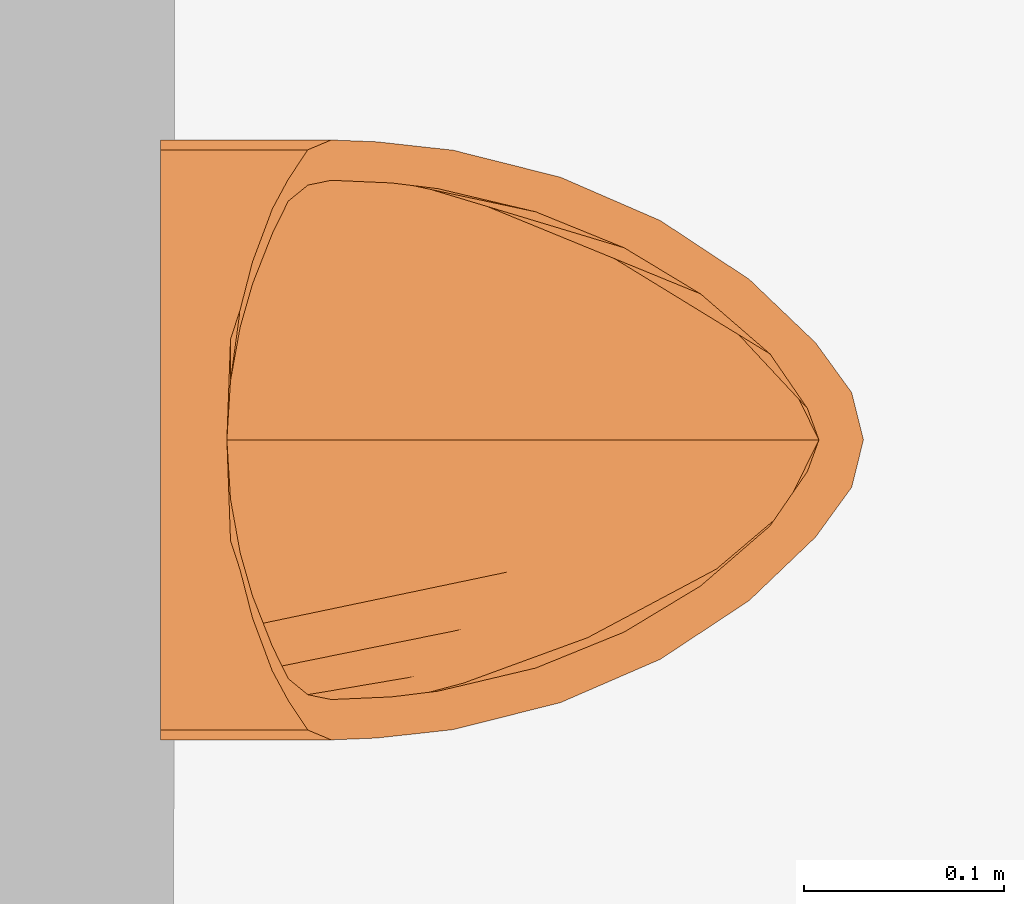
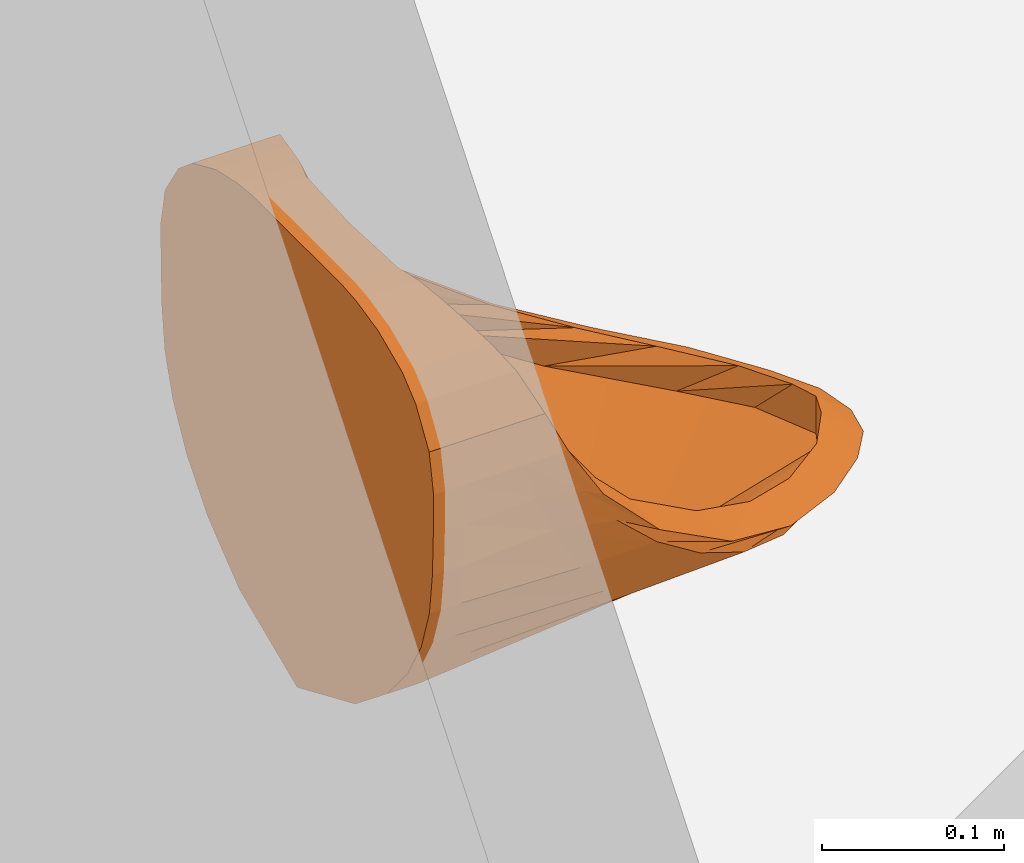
# One storey, part 194 of 196: 1 proxy.
"""IFC2X3 building model written with IfcOpenShell, lengths in metres."""

from ifc_helpers import new_model, entity, si_unit, converted_unit, derived_unit, money_unit, direction, frame, origin_with_axes, place, context, subcontext, project, spatial, open_shell, faceted_brep, surface_model, type_object, element, save


model = new_model("IFC2X3")

# Units and contexts
model_context = context("Model", 3, precision=1e-05, world=origin_with_axes(), true_north=direction((0.0, 1.0)))
body_context = subcontext(model_context, "Body", "Model", "MODEL_VIEW")
ifc_project = project(units=[si_unit("LENGTHUNIT", "METRE"), si_unit("AREAUNIT", "SQUARE_METRE"), si_unit("VOLUMEUNIT", "CUBIC_METRE"), converted_unit("PLANEANGLEUNIT", "DEGREE", entity("IfcPlaneAngleMeasure", 0.0174532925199), si_unit("PLANEANGLEUNIT", "RADIAN"), dimensions=[0, 0, 0, 0, 0, 0, 0]), money_unit("EUR"), converted_unit("TIMEUNIT", "Year", entity("IfcTimeMeasure", 31556926.0), si_unit("TIMEUNIT", "SECOND"), dimensions=[0, 0, 1, 0, 0, 0, 0]), si_unit("MASSUNIT", "GRAM", prefix="KILO"), si_unit("THERMODYNAMICTEMPERATUREUNIT", "DEGREE_CELSIUS"), si_unit("LUMINOUSINTENSITYUNIT", "LUMEN"), si_unit("ENERGYUNIT", "JOULE", prefix="MEGA"), derived_unit("THERMALCONDUCTANCEUNIT", [(si_unit("POWERUNIT", "WATT"), 1), (si_unit("LENGTHUNIT", "METRE"), -1), (si_unit("THERMODYNAMICTEMPERATUREUNIT", "KELVIN"), -1)]), derived_unit("SPECIFICHEATCAPACITYUNIT", [(si_unit("ENERGYUNIT", "JOULE"), 1), (si_unit("MASSUNIT", "GRAM", prefix="KILO"), -1), (si_unit("THERMODYNAMICTEMPERATUREUNIT", "KELVIN"), -1)]), derived_unit("MASSDENSITYUNIT", [(si_unit("MASSUNIT", "GRAM", prefix="KILO"), 1), (si_unit("VOLUMEUNIT", "CUBIC_METRE"), -1)])], contexts=[model_context])

# Site, building, storey
site_placement = place(None, origin_with_axes())
site = spatial("IfcSite", under=ifc_project, at=site_placement, Name="Gelände", CompositionType="ELEMENT")
building_placement = place(site_placement, origin_with_axes())
building = spatial("IfcBuilding", under=site, at=building_placement, Name="Gebäude", CompositionType="ELEMENT")
storey_placement = place(building_placement, frame((0.0, 0.0, -3.0), z_axis=(0.0, 0.0, 1.0), x_axis=(1.0, 0.0, 0.0)))
storey = spatial("IfcBuildingStorey", under=building, at=storey_placement, Name="KELLERGESCHOSS", CompositionType="ELEMENT", Elevation=-3.0)

# Proxy
building_element_proxy_type = type_object("IfcBuildingElementProxyType", Name="Urinal 1 25", PredefinedType="NOTDEFINED")
proxy_placement = place(storey_placement, frame((13.3709975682, 23.1837958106, -0.149475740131), z_axis=(0.0, 0.0, 1.0), x_axis=(0.0, 1.0, 0.0)))
element("IfcBuildingElementProxy", 1, at=proxy_placement, inside=storey, type_object=building_element_proxy_type, Name="Objekt-00220", context=body_context, shape_type="SurfaceModel", body=[
    faceted_brep([(0.0, 0.00663189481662, 1.0), (-0.0503710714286, 0.00663189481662, 0.999898), (-0.0503710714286, 0.0, 0.999898), (0.0, 0.0, 1.0), (0.0503710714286, 0.00663189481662, 0.999898), (0.0650260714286, 0.00663189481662, 0.998525), (0.0890367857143, 0.00663189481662, 0.993198), (0.115533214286, 0.00663189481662, 0.981535), (0.130329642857, 0.00663189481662, 0.969181), (0.1451025, 0.00663189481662, 0.945871), (0.15, 0.00663189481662, 0.920148), (0.149671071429, 0.00663189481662, 0.89263), (0.148683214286, 0.00663189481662, 0.865111), (0.145370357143, 0.00663189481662, 0.837593), (0.136527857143, 0.00663189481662, 0.810074), (0.121330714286, 0.00663189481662, 0.782556), (0.0982478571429, 0.00663189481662, 0.755037), (0.0638796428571, 0.00663189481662, 0.727519), (0.0, 0.00663189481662, 0.7), (-0.0638796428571, 0.00663189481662, 0.727519), (-0.0982478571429, 0.00663189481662, 0.755037), (-0.121330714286, 0.00663189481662, 0.782556), (-0.136527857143, 0.00663189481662, 0.810074), (-0.145370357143, 0.00663189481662, 0.837593), (-0.148683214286, 0.00663189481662, 0.865111), (-0.149671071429, 0.00663189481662, 0.89263), (-0.15, 0.00663189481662, 0.920148), (-0.1451025, 0.00663189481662, 0.945871), (-0.130329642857, 0.00663189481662, 0.969181), (-0.115533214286, 0.00663189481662, 0.981535), (-0.0890367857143, 0.00663189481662, 0.993198), (-0.0650260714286, 0.00663189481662, 0.998525), (-0.0650260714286, 0.0, 0.998525), (-0.0890367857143, 0.0, 0.993198), (-0.115533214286, 0.0, 0.981535), (-0.130329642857, 0.0, 0.969181), (-0.1451025, 0.0, 0.945871), (-0.15, 0.0, 0.920148), (-0.149671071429, 0.0, 0.89263), (-0.148683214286, 0.0, 0.865111), (-0.145370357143, 0.0, 0.837593), (-0.136527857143, 0.0, 0.810074), (-0.121330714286, 0.0, 0.782556), (-0.0982478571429, 0.0, 0.755037), (-0.0638796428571, 0.0, 0.727519), (0.0, 0.0, 0.7), (0.0638796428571, 0.0, 0.727519), (0.0982478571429, 0.0, 0.755037), (0.121330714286, 0.0, 0.782556), (0.136527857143, 0.0, 0.810074), (0.145370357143, 0.0, 0.837593), (0.148683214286, 0.0, 0.865111), (0.149671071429, 0.0, 0.89263), (0.15, 0.0, 0.920148), (0.1451025, 0.0, 0.945871), (0.130329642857, 0.0, 0.969181), (0.115533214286, 0.0, 0.981535), (0.0890367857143, 0.0, 0.993198), (0.0650260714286, 0.0, 0.998525), (0.0503710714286, 0.0, 0.999898)], [[[0, 1, 2, 3]], [[0, 4, 5, 6, 7, 8, 9, 10, 11, 12, 13, 14, 15, 16, 17, 18, 19, 20, 21, 22, 23, 24, 25, 26, 27, 28, 29, 30, 31, 1]], [[1, 31, 32, 2]], [[3, 2, 32, 33, 34, 35, 36, 37, 38, 39, 40, 41, 42, 43, 44, 45, 46, 47, 48, 49, 50, 51, 52, 53, 54, 55, 56, 57, 58, 59]], [[4, 0, 3, 59]], [[5, 4, 59, 58]], [[6, 5, 58, 57]], [[7, 6, 57, 56]], [[8, 7, 56, 55]], [[9, 8, 55, 54]], [[10, 9, 54, 53]], [[11, 10, 53, 52]], [[12, 11, 52, 51]], [[13, 12, 51, 50]], [[14, 13, 50, 49]], [[15, 14, 49, 48]], [[16, 15, 48, 47]], [[17, 16, 47, 46]], [[18, 17, 46, 45]], [[19, 18, 45, 44]], [[20, 19, 44, 43]], [[21, 20, 43, 42]], [[22, 21, 42, 41]], [[23, 22, 41, 40]], [[24, 23, 40, 39]], [[25, 24, 39, 38]], [[26, 25, 38, 37]], [[27, 26, 37, 36]], [[28, 27, 36, 35]], [[29, 28, 35, 34]], [[30, 29, 34, 33]], [[31, 30, 33, 32]]]),
    surface_model("IfcShellBasedSurfaceModel", [(0.0, 0.0, 1.0), (0.0, -0.0132637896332, 1.0), (-0.0503710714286, -0.0132637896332, 0.999898), (0.0503710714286, 0.0, 0.999898), (-0.0503710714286, -0.0199407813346, 0.999898), (-0.0503710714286, 0.0, 0.999898), (0.0503710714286, -0.0132637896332, 0.999898), (0.0, -0.0198956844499, 1.0), (-0.0650260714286, -0.0205495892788, 0.998525), (-0.0650260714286, -0.0132637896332, 0.998525), (0.0650260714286, 0.0, 0.998525), (-0.0503710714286, -0.0255261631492, 0.999898), (-0.0650260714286, -0.0263856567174, 0.998525), (-0.0650260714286, 0.0, 0.998525), (0.0650260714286, -0.0132637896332, 0.998525), (0.0503710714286, -0.0199407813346, 0.999898), (0.0, -0.0254571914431, 1.0), (-0.0890367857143, -0.0299337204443, 0.993198), (-0.0890367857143, -0.0228773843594, 0.993198), (-0.0890367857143, -0.0132637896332, 0.993198), (0.0890367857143, 0.0, 0.993198), (-0.0503710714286, -0.0283447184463, 0.999898), (-0.0650260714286, -0.0331501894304, 0.998525), (-0.0890367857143, -0.0393284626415, 0.993198), (-0.0890367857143, 0.0, 0.993198), (0.0890367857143, -0.0132637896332, 0.993198), (0.0650260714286, -0.0205495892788, 0.998525), (0.0503710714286, -0.0255261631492, 0.999898), (0.0, -0.0265275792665, 1.0), (-0.115533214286, -0.0492497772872, 0.981535), (-0.115533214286, -0.0373296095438, 0.981535), (-0.115533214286, -0.0277902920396, 0.981535), (-0.115533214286, -0.0132637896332, 0.981535), (0.115533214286, 0.0, 0.981535), (-0.115533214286, 0.0, 0.981535), (0.115533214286, -0.0132637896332, 0.981535), (0.0890367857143, -0.0228773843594, 0.993198), (0.0650260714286, -0.0263856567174, 0.998525), (0.0503710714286, -0.0283447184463, 0.999898), (-0.130329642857, -0.0572040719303, 0.969181), (-0.130329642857, -0.0447878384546, 0.969181), (-0.130329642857, -0.0327244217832, 0.969181), (-0.130329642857, -0.0132637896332, 0.969181), (0.130329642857, 0.0, 0.969181), (-0.130329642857, 0.0, 0.969181), (0.130329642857, -0.0132637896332, 0.969181), (0.115533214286, -0.0277902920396, 0.981535), (0.0890367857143, -0.0299337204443, 0.993198), (0.0650260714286, -0.0331501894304, 0.998525), (-0.1451025, -0.0670351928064, 0.945871), (-0.1451025, -0.0578420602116, 0.945871), (-0.1451025, -0.0412901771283, 0.945871), (-0.1451025, -0.0132637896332, 0.945871), (0.1451025, 0.0, 0.945871), (-0.1451025, 0.0, 0.945871), (0.1451025, -0.0132637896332, 0.945871), (0.130329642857, -0.0327244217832, 0.969181), (0.115533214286, -0.0373296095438, 0.981535), (0.0890367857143, -0.0393284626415, 0.993198), (-0.15, -0.078696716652, 0.920148), (-0.15, -0.0707623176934, 0.920148), (-0.15, -0.0496344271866, 0.920148), (-0.15, -0.0132637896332, 0.920148), (0.15, 0.0, 0.920148), (-0.15, 0.0, 0.920148), (0.15, -0.0132637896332, 0.920148), (0.1451025, -0.0412901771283, 0.945871), (0.130329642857, -0.0447878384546, 0.969181), (0.115533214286, -0.0492497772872, 0.981535), (-0.149088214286, -0.101554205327, 0.882346), (-0.148938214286, -0.0887122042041, 0.888729), (-0.148493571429, -0.0593819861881, 0.893637), (-0.149671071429, -0.0132637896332, 0.89263), (0.149671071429, 0.0, 0.89263), (-0.149671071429, 0.0, 0.89263), (0.149671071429, -0.0132637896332, 0.89263), (0.15, -0.0496344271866, 0.920148), (0.1451025, -0.0578420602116, 0.945871), (0.130329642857, -0.0572040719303, 0.969181), (-0.144867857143, -0.139744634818, 0.842424), (-0.146004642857, -0.111852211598, 0.859303), (-0.1458225, -0.0719520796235, 0.866246), (-0.148683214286, -0.0132637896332, 0.865111), (0.148683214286, 0.0, 0.865111), (-0.148683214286, 0.0, 0.865111), (0.148683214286, -0.0132637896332, 0.865111), (0.148493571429, -0.0593819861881, 0.893637), (0.15, -0.0707623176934, 0.920148), (0.1451025, -0.0670351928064, 0.945871), (-0.131359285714, -0.193371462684, 0.807653), (-0.1416, -0.139801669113, 0.832354), (-0.137941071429, -0.0934433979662, 0.829001), (-0.145370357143, -0.0132637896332, 0.837593), (0.145370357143, 0.0, 0.837593), (-0.145370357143, 0.0, 0.837593), (0.145370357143, -0.0132637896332, 0.837593), (0.1458225, -0.0719520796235, 0.866246), (0.148938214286, -0.0887122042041, 0.888729), (0.15, -0.078696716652, 0.920148), (-0.109682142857, -0.243328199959, 0.787417), (-0.133041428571, -0.172100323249, 0.808327), (-0.118344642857, -0.120209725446, 0.792232), (-0.136527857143, -0.0132637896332, 0.810074), (0.136527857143, 0.0, 0.810074), (-0.136527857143, 0.0, 0.810074), (0.136527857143, -0.0132637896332, 0.810074), (0.137941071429, -0.0934433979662, 0.829001), (0.146004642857, -0.111852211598, 0.859303), (0.149088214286, -0.101554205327, 0.882346), (-0.0803528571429, -0.287719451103, 0.776444), (-0.1187925, -0.208216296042, 0.787618), (-0.09477, -0.143958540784, 0.76517), (-0.121330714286, -0.0132637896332, 0.782556), (0.121330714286, 0.0, 0.782556), (-0.121330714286, 0.0, 0.782556), (0.121330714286, -0.0132637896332, 0.782556), (0.118344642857, -0.120209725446, 0.792232), (0.1416, -0.139801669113, 0.832354), (0.144867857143, -0.139744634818, 0.842424), (-0.0486064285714, -0.320918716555, 0.768676), (-0.0942653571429, -0.247552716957, 0.770567), (-0.0659742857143, -0.16728822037, 0.742159), (-0.0982478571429, -0.0132637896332, 0.755037), (0.0982478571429, 0.0, 0.755037), (-0.0982478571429, 0.0, 0.755037), (0.0982478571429, -0.0132637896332, 0.755037), (0.09477, -0.143958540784, 0.76517), (0.133041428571, -0.172100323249, 0.808327), (0.131359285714, -0.193371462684, 0.807653), (-0.0237192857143, -0.338974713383, 0.765137), (-0.0589767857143, -0.289462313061, 0.757456), (-0.0335507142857, -0.189713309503, 0.724265), (-0.0638796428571, -0.0132637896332, 0.727519), (0.0638796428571, 0.0, 0.727519), (-0.0638796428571, 0.0, 0.727519), (0.0638796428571, -0.0132637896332, 0.727519), (0.0659742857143, -0.16728822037, 0.742159), (0.1187925, -0.208216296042, 0.787618), (0.109682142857, -0.243328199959, 0.787417), (0.0, -0.344858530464, 0.763229), (0.0, -0.333254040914, 0.748501), (0.0, -0.209976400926, 0.712313), (0.0, -0.0132637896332, 0.7), (0.0, 0.0, 0.7), (0.0335507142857, -0.189713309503, 0.724265), (0.0942653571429, -0.247552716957, 0.770567), (0.0803528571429, -0.287719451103, 0.776444), (0.0237192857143, -0.338974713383, 0.765137), (0.0589767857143, -0.289462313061, 0.757456), (0.0486064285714, -0.320918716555, 0.768676)], [open_shell([[[0, 1, 2]], [[3, 1, 0]], [[1, 4, 2]], [[0, 2, 5]], [[3, 6, 1]], [[1, 7, 4]], [[2, 4, 8]], [[5, 2, 9]], [[10, 6, 3]], [[6, 7, 1]], [[7, 11, 4]], [[4, 12, 8]], [[2, 8, 9]], [[5, 9, 13]], [[10, 14, 6]], [[6, 15, 7]], [[7, 16, 11]], [[4, 11, 12]], [[8, 12, 17]], [[9, 8, 18]], [[13, 9, 19]], [[20, 14, 10]], [[14, 15, 6]], [[15, 16, 7]], [[16, 21, 11]], [[11, 22, 12]], [[12, 23, 17]], [[8, 17, 18]], [[9, 18, 19]], [[13, 19, 24]], [[20, 25, 14]], [[14, 26, 15]], [[15, 27, 16]], [[16, 28, 21]], [[11, 21, 22]], [[12, 22, 23]], [[17, 23, 29]], [[18, 17, 30]], [[19, 18, 31]], [[24, 19, 32]], [[33, 25, 20]], [[25, 26, 14]], [[26, 27, 15]], [[27, 28, 16]], [[17, 29, 30]], [[18, 30, 31]], [[19, 31, 32]], [[24, 32, 34]], [[33, 35, 25]], [[25, 36, 26]], [[26, 37, 27]], [[27, 38, 28]], [[30, 29, 39]], [[31, 30, 40]], [[32, 31, 41]], [[34, 32, 42]], [[43, 35, 33]], [[35, 36, 25]], [[36, 37, 26]], [[37, 38, 27]], [[30, 39, 40]], [[31, 40, 41]], [[32, 41, 42]], [[34, 42, 44]], [[43, 45, 35]], [[35, 46, 36]], [[36, 47, 37]], [[37, 48, 38]], [[40, 39, 49]], [[41, 40, 50]], [[42, 41, 51]], [[44, 42, 52]], [[53, 45, 43]], [[45, 46, 35]], [[46, 47, 36]], [[47, 48, 37]], [[40, 49, 50]], [[41, 50, 51]], [[42, 51, 52]], [[44, 52, 54]], [[53, 55, 45]], [[45, 56, 46]], [[46, 57, 47]], [[47, 58, 48]], [[50, 49, 59]], [[51, 50, 60]], [[52, 51, 61]], [[54, 52, 62]], [[63, 55, 53]], [[55, 56, 45]], [[56, 57, 46]], [[57, 58, 47]], [[50, 59, 60]], [[51, 60, 61]], [[52, 61, 62]], [[54, 62, 64]], [[63, 65, 55]], [[55, 66, 56]], [[56, 67, 57]], [[57, 68, 58]], [[60, 59, 69]], [[61, 60, 70]], [[62, 61, 71]], [[64, 62, 72]], [[73, 65, 63]], [[65, 66, 55]], [[66, 67, 56]], [[67, 68, 57]], [[60, 69, 70]], [[61, 70, 71]], [[62, 71, 72]], [[64, 72, 74]], [[73, 75, 65]], [[65, 76, 66]], [[66, 77, 67]], [[67, 78, 68]], [[70, 69, 79]], [[71, 70, 80]], [[72, 71, 81]], [[74, 72, 82]], [[83, 75, 73]], [[75, 76, 65]], [[76, 77, 66]], [[77, 78, 67]], [[70, 79, 80]], [[71, 80, 81]], [[72, 81, 82]], [[74, 82, 84]], [[83, 85, 75]], [[75, 86, 76]], [[76, 87, 77]], [[77, 88, 78]], [[80, 79, 89]], [[81, 80, 90]], [[82, 81, 91]], [[84, 82, 92]], [[93, 85, 83]], [[85, 86, 75]], [[86, 87, 76]], [[87, 88, 77]], [[80, 89, 90]], [[81, 90, 91]], [[82, 91, 92]], [[84, 92, 94]], [[93, 95, 85]], [[85, 96, 86]], [[86, 97, 87]], [[87, 98, 88]], [[90, 89, 99]], [[91, 90, 100]], [[92, 91, 101]], [[94, 92, 102]], [[103, 95, 93]], [[95, 96, 85]], [[96, 97, 86]], [[97, 98, 87]], [[90, 99, 100]], [[91, 100, 101]], [[92, 101, 102]], [[94, 102, 104]], [[103, 105, 95]], [[95, 106, 96]], [[96, 107, 97]], [[97, 108, 98]], [[100, 99, 109]], [[101, 100, 110]], [[102, 101, 111]], [[104, 102, 112]], [[113, 105, 103]], [[105, 106, 95]], [[106, 107, 96]], [[107, 108, 97]], [[100, 109, 110]], [[101, 110, 111]], [[102, 111, 112]], [[104, 112, 114]], [[113, 115, 105]], [[105, 116, 106]], [[106, 117, 107]], [[107, 118, 108]], [[110, 109, 119]], [[111, 110, 120]], [[112, 111, 121]], [[114, 112, 122]], [[123, 115, 113]], [[115, 116, 105]], [[116, 117, 106]], [[117, 118, 107]], [[110, 119, 120]], [[111, 120, 121]], [[112, 121, 122]], [[114, 122, 124]], [[123, 125, 115]], [[115, 126, 116]], [[116, 127, 117]], [[117, 128, 118]], [[120, 119, 129]], [[121, 120, 130]], [[122, 121, 131]], [[124, 122, 132]], [[133, 125, 123]], [[125, 126, 115]], [[126, 127, 116]], [[127, 128, 117]], [[120, 129, 130]], [[121, 130, 131]], [[122, 131, 132]], [[124, 132, 134]], [[133, 135, 125]], [[125, 136, 126]], [[126, 137, 127]], [[127, 138, 128]], [[130, 129, 139]], [[131, 130, 140]], [[132, 131, 141]], [[134, 132, 142]], [[143, 135, 133]], [[135, 136, 125]], [[136, 137, 126]], [[137, 138, 127]], [[130, 139, 140]], [[131, 140, 141]], [[132, 141, 142]], [[134, 142, 143]], [[143, 142, 135]], [[135, 144, 136]], [[136, 145, 137]], [[137, 146, 138]], [[140, 139, 147]], [[141, 140, 148]], [[142, 141, 144]], [[142, 144, 135]], [[144, 145, 136]], [[145, 146, 137]], [[140, 147, 148]], [[141, 148, 144]], [[144, 148, 145]], [[145, 149, 146]], [[148, 147, 149]], [[148, 149, 145]]])]),
    surface_model("IfcShellBasedSurfaceModel", [(0.0, -0.0265275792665, 1.0), (0.0, -0.0265275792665, 0.99), (-0.0295992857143, -0.0283447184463, 0.988966), (0.0503710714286, -0.0283447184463, 0.999898), (-0.0503710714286, -0.0283447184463, 0.999898), (0.0295992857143, -0.0283447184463, 0.988966), (-0.056325, -0.0331501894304, 0.98626), (0.0650260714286, -0.0331501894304, 0.998525), (-0.0650260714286, -0.0331501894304, 0.998525), (0.056325, -0.0331501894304, 0.98626), (-0.0779764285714, -0.0393284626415, 0.98082), (0.0890367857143, -0.0393284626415, 0.993198), (-0.0890367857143, -0.0393284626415, 0.993198), (0.0779764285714, -0.0393284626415, 0.98082), (-0.103178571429, -0.0492497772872, 0.968491), (0.115533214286, -0.0492497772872, 0.981535), (-0.115533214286, -0.0492497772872, 0.981535), (0.103178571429, -0.0492497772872, 0.968491), (-0.119395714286, -0.0572040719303, 0.952746), (0.130329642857, -0.0572040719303, 0.969181), (-0.130329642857, -0.0572040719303, 0.969181), (0.119395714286, -0.0572040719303, 0.952746), (-0.127429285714, -0.0670351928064, 0.936322), (0.1451025, -0.0670351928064, 0.945871), (-0.1451025, -0.0670351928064, 0.945871), (0.127429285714, -0.0670351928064, 0.936322), (-0.129833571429, -0.078696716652, 0.920148), (0.15, -0.078696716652, 0.920148), (-0.15, -0.078696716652, 0.920148), (0.129833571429, -0.078696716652, 0.920148), (-0.128517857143, -0.108732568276, 0.87807), (0.149088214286, -0.101554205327, 0.882346), (-0.149088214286, -0.101554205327, 0.882346), (0.128517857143, -0.108732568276, 0.87807), (-0.125659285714, -0.132029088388, 0.854025), (0.144867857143, -0.139744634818, 0.842424), (-0.144867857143, -0.139744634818, 0.842424), (0.125659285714, -0.132029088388, 0.854025), (-0.114079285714, -0.180949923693, 0.821972), (0.131359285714, -0.193371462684, 0.807653), (-0.131359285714, -0.193371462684, 0.807653), (0.114079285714, -0.180949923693, 0.821972), (-0.09609, -0.225203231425, 0.801839), (0.109682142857, -0.243328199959, 0.787417), (-0.109682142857, -0.243328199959, 0.787417), (0.09609, -0.225203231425, 0.801839), (-0.0730071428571, -0.263458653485, 0.790008), (0.0803528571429, -0.287719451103, 0.776444), (-0.0803528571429, -0.287719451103, 0.776444), (0.0730071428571, -0.263458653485, 0.790008), (-0.0429910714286, -0.298163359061, 0.783002), (0.0486064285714, -0.320918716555, 0.768676), (-0.0486064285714, -0.320918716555, 0.768676), (0.0429910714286, -0.298163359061, 0.783002), (-0.0157767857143, -0.316837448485, 0.78057), (0.0237192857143, -0.338974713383, 0.765137), (-0.0237192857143, -0.338974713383, 0.765137), (0.0157767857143, -0.316837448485, 0.78057), (0.0, -0.322613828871, 0.78), (0.0, -0.344858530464, 0.763229)], [open_shell([[[0, 1, 2]], [[3, 1, 0]], [[0, 2, 4]], [[3, 5, 1]], [[4, 2, 6]], [[7, 5, 3]], [[4, 6, 8]], [[7, 9, 5]], [[8, 6, 10]], [[11, 9, 7]], [[8, 10, 12]], [[11, 13, 9]], [[12, 10, 14]], [[15, 13, 11]], [[12, 14, 16]], [[15, 17, 13]], [[16, 14, 18]], [[19, 17, 15]], [[16, 18, 20]], [[19, 21, 17]], [[20, 18, 22]], [[23, 21, 19]], [[20, 22, 24]], [[23, 25, 21]], [[24, 22, 26]], [[27, 25, 23]], [[24, 26, 28]], [[27, 29, 25]], [[28, 26, 30]], [[31, 29, 27]], [[28, 30, 32]], [[31, 33, 29]], [[32, 30, 34]], [[35, 33, 31]], [[32, 34, 36]], [[35, 37, 33]], [[36, 34, 38]], [[39, 37, 35]], [[36, 38, 40]], [[39, 41, 37]], [[40, 38, 42]], [[43, 41, 39]], [[40, 42, 44]], [[43, 45, 41]], [[44, 42, 46]], [[47, 45, 43]], [[44, 46, 48]], [[47, 49, 45]], [[48, 46, 50]], [[51, 49, 47]], [[48, 50, 52]], [[51, 53, 49]], [[52, 50, 54]], [[55, 53, 51]], [[52, 54, 56]], [[55, 57, 53]], [[56, 54, 58]], [[59, 57, 55]], [[56, 58, 59]], [[59, 58, 57]]])]),
    surface_model("IfcShellBasedSurfaceModel", [(0.0, -0.0265275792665, 0.99), (0.0, -0.0190136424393, 0.965651), (-0.0274382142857, -0.0220749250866, 0.964581), (0.0295992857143, -0.0283447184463, 0.988966), (-0.0295992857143, -0.0283447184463, 0.988966), (0.0274382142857, -0.0220749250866, 0.964581), (-0.0502746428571, -0.0246985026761, 0.962521), (0.056325, -0.0331501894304, 0.98626), (-0.056325, -0.0331501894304, 0.98626), (0.0502746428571, -0.0246985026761, 0.962521), (-0.0711675, -0.0264957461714, 0.959712), (0.0779764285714, -0.0393284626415, 0.98082), (-0.0779764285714, -0.0393284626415, 0.98082), (0.0711675, -0.0264957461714, 0.959712), (-0.0919746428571, -0.0292983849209, 0.954245), (0.103178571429, -0.0492497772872, 0.968491), (-0.103178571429, -0.0492497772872, 0.968491), (0.0919746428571, -0.0292983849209, 0.954245), (-0.111946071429, -0.0329684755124, 0.945674), (0.119395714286, -0.0572040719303, 0.952746), (-0.119395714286, -0.0572040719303, 0.952746), (0.111946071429, -0.0329684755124, 0.945674), (-0.123648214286, -0.0367579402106, 0.937494), (0.127429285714, -0.0670351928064, 0.936322), (-0.127429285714, -0.0670351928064, 0.936322), (0.123648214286, -0.0367579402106, 0.937494), (-0.136245, -0.0426483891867, 0.920148), (0.129833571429, -0.078696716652, 0.920148), (-0.129833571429, -0.078696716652, 0.920148), (0.136245, -0.0426483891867, 0.920148), (-0.136804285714, -0.0586564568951, 0.892365), (0.128517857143, -0.108732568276, 0.87807), (-0.128517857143, -0.108732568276, 0.87807), (0.136804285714, -0.0586564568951, 0.892365), (-0.135535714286, -0.0803162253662, 0.864684), (0.125659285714, -0.132029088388, 0.854025), (-0.125659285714, -0.132029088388, 0.854025), (0.135535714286, -0.0803162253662, 0.864684), (-0.131289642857, -0.108507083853, 0.837549), (0.114079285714, -0.180949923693, 0.821972), (-0.114079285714, -0.180949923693, 0.821972), (0.131289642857, -0.108507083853, 0.837549), (-0.121640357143, -0.144742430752, 0.811391), (0.09609, -0.225203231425, 0.801839), (-0.09609, -0.225203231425, 0.801839), (0.121640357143, -0.144742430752, 0.811391), (-0.0988671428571, -0.2069641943, 0.780769), (0.0730071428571, -0.263458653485, 0.790008), (-0.0730071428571, -0.263458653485, 0.790008), (0.0988671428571, -0.2069641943, 0.780769), (-0.0645653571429, -0.271361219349, 0.762219), (0.0429910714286, -0.298163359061, 0.783002), (-0.0429910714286, -0.298163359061, 0.783002), (0.0645653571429, -0.271361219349, 0.762219), (-0.0362764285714, -0.304746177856, 0.756815), (0.0157767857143, -0.316837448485, 0.78057), (-0.0157767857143, -0.316837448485, 0.78057), (0.0362764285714, -0.304746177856, 0.756815), (0.0, -0.322613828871, 0.755), (0.0, -0.322613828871, 0.78)], [open_shell([[[0, 1, 2]], [[3, 1, 0]], [[0, 2, 4]], [[3, 5, 1]], [[4, 2, 6]], [[7, 5, 3]], [[4, 6, 8]], [[7, 9, 5]], [[8, 6, 10]], [[11, 9, 7]], [[8, 10, 12]], [[11, 13, 9]], [[12, 10, 14]], [[15, 13, 11]], [[12, 14, 16]], [[15, 17, 13]], [[16, 14, 18]], [[19, 17, 15]], [[16, 18, 20]], [[19, 21, 17]], [[20, 18, 22]], [[23, 21, 19]], [[20, 22, 24]], [[23, 25, 21]], [[24, 22, 26]], [[27, 25, 23]], [[24, 26, 28]], [[27, 29, 25]], [[28, 26, 30]], [[31, 29, 27]], [[28, 30, 32]], [[31, 33, 29]], [[32, 30, 34]], [[35, 33, 31]], [[32, 34, 36]], [[35, 37, 33]], [[36, 34, 38]], [[39, 37, 35]], [[36, 38, 40]], [[39, 41, 37]], [[40, 38, 42]], [[43, 41, 39]], [[40, 42, 44]], [[43, 45, 41]], [[44, 42, 46]], [[47, 45, 43]], [[44, 46, 48]], [[47, 49, 45]], [[48, 46, 50]], [[51, 49, 47]], [[48, 50, 52]], [[51, 53, 49]], [[52, 50, 54]], [[55, 53, 51]], [[52, 54, 56]], [[55, 57, 53]], [[56, 54, 58]], [[59, 57, 55]], [[56, 58, 59]], [[59, 58, 57]]])]),
])

save(model, "model.ifc")
